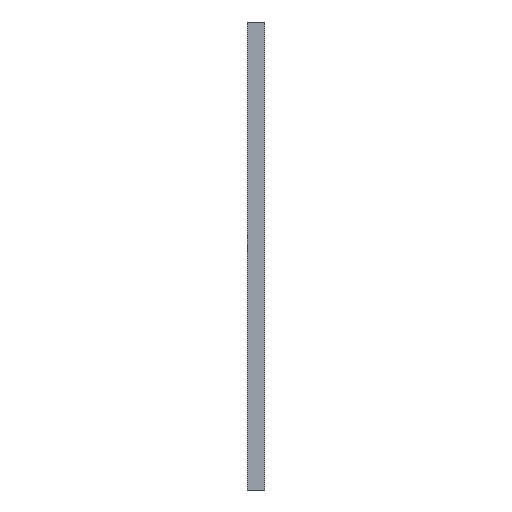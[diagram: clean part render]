
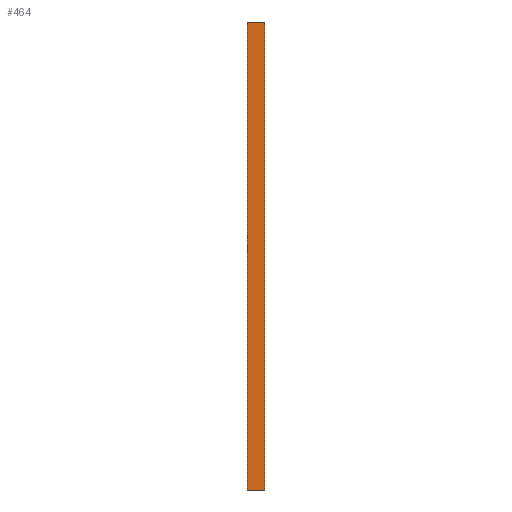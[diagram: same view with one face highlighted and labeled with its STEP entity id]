
A CAD part, left-side view. The second image highlights one B-rep face of the part: STEP entity #464.
In plain terms, the highlighted planar face has unit normal (-1, 0, 0).
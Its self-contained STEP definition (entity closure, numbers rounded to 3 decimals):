
#43 = PLANE ( 'NONE',  #632 ) ;
#59 = CARTESIAN_POINT ( 'NONE',  ( 0., 0., 0. ) ) ;
#86 = CARTESIAN_POINT ( 'NONE',  ( 0., 0., 0. ) ) ;
#122 = EDGE_CURVE ( 'NONE', #610, #533, #599, .T. ) ;
#168 = DIRECTION ( 'NONE',  ( 0., -1., 0. ) ) ;
#204 = CARTESIAN_POINT ( 'NONE',  ( 0., 3., 0. ) ) ;
#228 = EDGE_LOOP ( 'NONE', ( #417, #917, #427, #906 ) ) ;
#307 = LINE ( 'NONE', #886, #477 ) ;
#315 = EDGE_CURVE ( 'NONE', #916, #611, #307, .T. ) ;
#342 = VECTOR ( 'NONE', #787, 1000. ) ;
#361 = VECTOR ( 'NONE', #542, 1000. ) ;
#383 = LINE ( 'NONE', #204, #361 ) ;
#417 = ORIENTED_EDGE ( 'NONE', *, *, #122, .T. ) ;
#427 = ORIENTED_EDGE ( 'NONE', *, *, #315, .F. ) ;
#451 = VECTOR ( 'NONE', #168, 1000. ) ;
#464 = ADVANCED_FACE ( 'NONE', ( #587 ), #43, .F. ) ;
#465 = DIRECTION ( 'NONE',  ( 0., 0., -1. ) ) ;
#469 = CARTESIAN_POINT ( 'NONE',  ( 0., 3., 0. ) ) ;
#477 = VECTOR ( 'NONE', #818, 1000. ) ;
#524 = CARTESIAN_POINT ( 'NONE',  ( 0., 3., 0. ) ) ;
#531 = DIRECTION ( 'NONE',  ( 1., 0., 0. ) ) ;
#533 = VERTEX_POINT ( 'NONE', #59 ) ;
#542 = DIRECTION ( 'NONE',  ( 0., -1., 0. ) ) ;
#587 = FACE_OUTER_BOUND ( 'NONE', #228, .T. ) ;
#597 = EDGE_CURVE ( 'NONE', #611, #533, #383, .T. ) ;
#599 = LINE ( 'NONE', #86, #342 ) ;
#610 = VERTEX_POINT ( 'NONE', #910 ) ;
#611 = VERTEX_POINT ( 'NONE', #469 ) ;
#632 = AXIS2_PLACEMENT_3D ( 'NONE', #524, #531, #465 ) ;
#692 = LINE ( 'NONE', #881, #451 ) ;
#787 = DIRECTION ( 'NONE',  ( 0., 0., 1. ) ) ;
#813 = EDGE_CURVE ( 'NONE', #916, #610, #692, .T. ) ;
#818 = DIRECTION ( 'NONE',  ( 0., 0., 1. ) ) ;
#833 = CARTESIAN_POINT ( 'NONE',  ( 0., 3., -80. ) ) ;
#881 = CARTESIAN_POINT ( 'NONE',  ( 0., 3., -80. ) ) ;
#886 = CARTESIAN_POINT ( 'NONE',  ( 0., 3., 0. ) ) ;
#906 = ORIENTED_EDGE ( 'NONE', *, *, #813, .T. ) ;
#910 = CARTESIAN_POINT ( 'NONE',  ( 0., 0., -80. ) ) ;
#916 = VERTEX_POINT ( 'NONE', #833 ) ;
#917 = ORIENTED_EDGE ( 'NONE', *, *, #597, .F. ) ;
